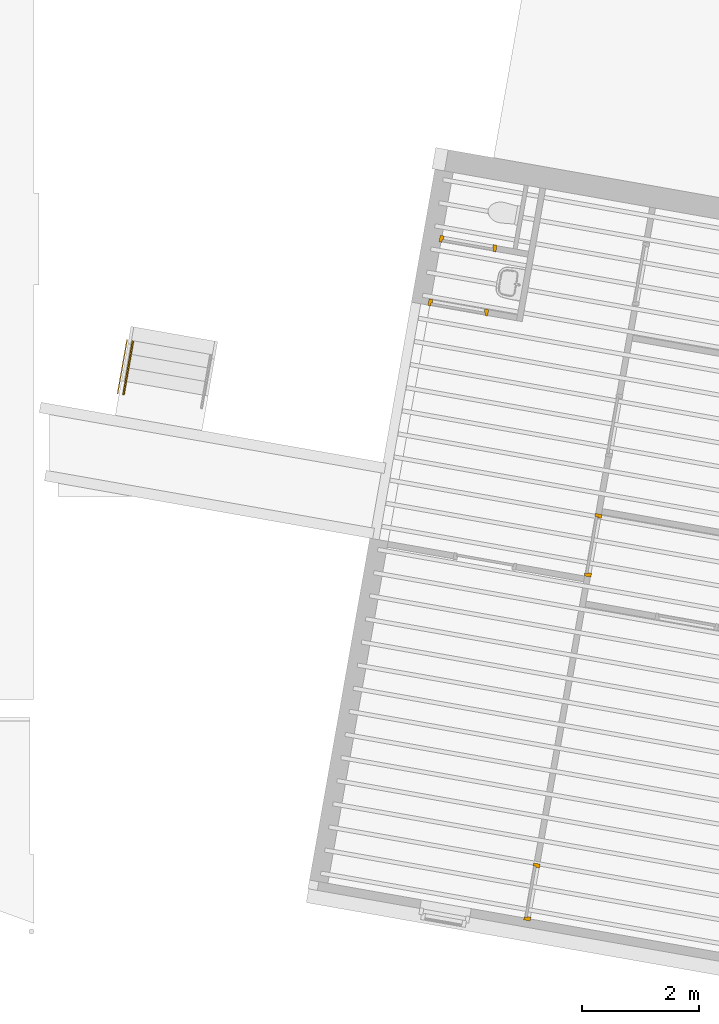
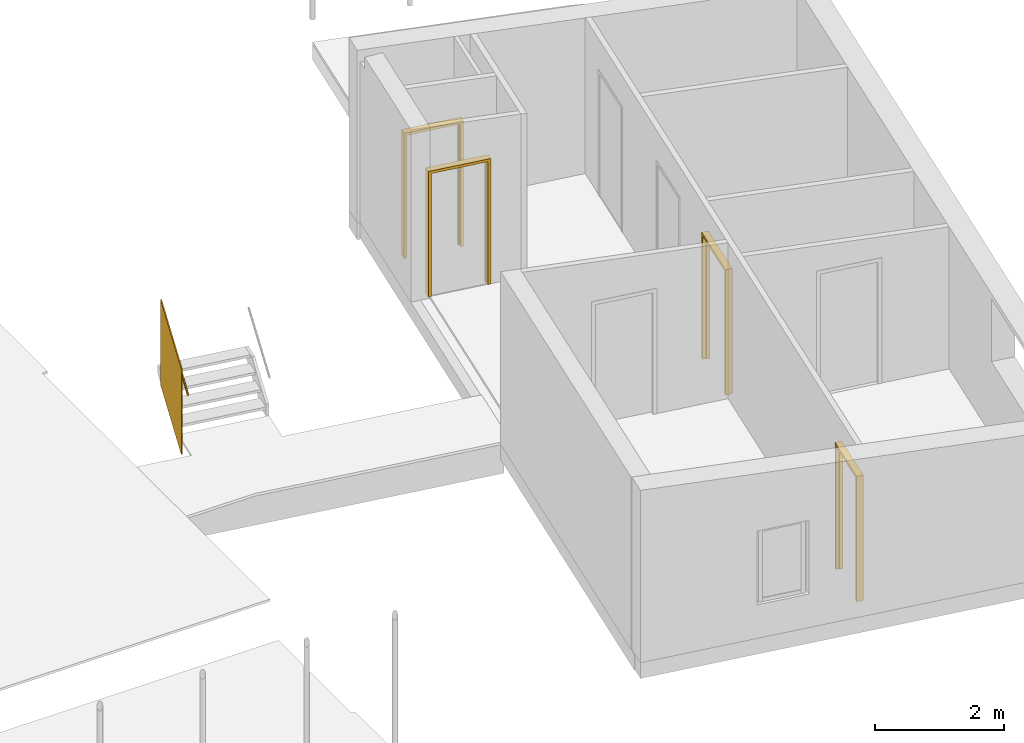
# One storey, part 7 of 7: 4 doors, 1 railing, 1 element without a shape of its own.
"""IFC2X3 building model written with IfcOpenShell, lengths in millimetres."""

from ifc_helpers import new_model, entity, si_unit, converted_unit, derived_unit, direction, frame, origin, place, context, subcontext, project, spatial, faceted_brep, source, transform, mapped, material, material_list, type_object, type_shapes, element, aggregate, save


model = new_model("IFC2X3")

# Units and contexts
model_context = context("Model", 3, precision=0.01, world=origin(), true_north=direction((6.12303176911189e-17, 1.0)))
body_context = subcontext(model_context, "Body", "Model", "MODEL_VIEW")
ifc_project = project(units=[si_unit("LENGTHUNIT", "METRE", prefix="MILLI"), si_unit("AREAUNIT", "SQUARE_METRE"), si_unit("VOLUMEUNIT", "CUBIC_METRE"), converted_unit("PLANEANGLEUNIT", "DEGREE", entity("IfcRatioMeasure", 0.0174532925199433), si_unit("PLANEANGLEUNIT", "RADIAN"), dimensions=[0, 0, 0, 0, 0, 0, 0]), si_unit("MASSUNIT", "GRAM", prefix="KILO"), derived_unit("MASSDENSITYUNIT", [(si_unit("MASSUNIT", "GRAM", prefix="KILO"), 1), (si_unit("LENGTHUNIT", "METRE"), -3)]), derived_unit("MOMENTOFINERTIAUNIT", [(si_unit("LENGTHUNIT", "METRE"), 4)]), si_unit("TIMEUNIT", "SECOND"), si_unit("FREQUENCYUNIT", "HERTZ"), si_unit("THERMODYNAMICTEMPERATUREUNIT", "DEGREE_CELSIUS"), derived_unit("THERMALTRANSMITTANCEUNIT", [(si_unit("MASSUNIT", "GRAM", prefix="KILO"), 1), (si_unit("THERMODYNAMICTEMPERATUREUNIT", "KELVIN"), -1), (si_unit("TIMEUNIT", "SECOND"), -3)]), derived_unit("VOLUMETRICFLOWRATEUNIT", [(si_unit("LENGTHUNIT", "METRE"), 3), (si_unit("TIMEUNIT", "SECOND"), -1)]), si_unit("ELECTRICCURRENTUNIT", "AMPERE"), si_unit("ELECTRICVOLTAGEUNIT", "VOLT"), si_unit("POWERUNIT", "WATT"), si_unit("FORCEUNIT", "NEWTON", prefix="KILO"), si_unit("ILLUMINANCEUNIT", "LUX"), si_unit("LUMINOUSFLUXUNIT", "LUMEN"), si_unit("LUMINOUSINTENSITYUNIT", "CANDELA"), derived_unit("USERDEFINED", [(si_unit("MASSUNIT", "GRAM", prefix="KILO"), -1), (si_unit("LENGTHUNIT", "METRE"), -2), (si_unit("TIMEUNIT", "SECOND"), 3), (si_unit("LUMINOUSFLUXUNIT", "LUMEN"), 1)]), derived_unit("LINEARVELOCITYUNIT", [(si_unit("LENGTHUNIT", "METRE"), 1), (si_unit("TIMEUNIT", "SECOND"), -1)]), si_unit("PRESSUREUNIT", "PASCAL"), derived_unit("USERDEFINED", [(si_unit("LENGTHUNIT", "METRE"), -2), (si_unit("MASSUNIT", "GRAM", prefix="KILO"), 1), (si_unit("TIMEUNIT", "SECOND"), -2)]), derived_unit("LINEARFORCEUNIT", [(si_unit("MASSUNIT", "GRAM", prefix="KILO"), 1), (si_unit("LENGTHUNIT", "METRE"), 1), (si_unit("TIMEUNIT", "SECOND"), -2), (si_unit("LENGTHUNIT", "METRE"), -1)]), derived_unit("PLANARFORCEUNIT", [(si_unit("MASSUNIT", "GRAM", prefix="KILO"), 1), (si_unit("LENGTHUNIT", "METRE"), 1), (si_unit("TIMEUNIT", "SECOND"), -2), (si_unit("LENGTHUNIT", "METRE"), -2)])], contexts=[model_context])

# Site, building, storey
site_placement = place(None, origin())
site = spatial("IfcSite", under=ifc_project, at=site_placement, Name="<Kadaster Gemeente>;<Kadaster nummer>;<Kadaster sectie>", CompositionType="ELEMENT")
building_placement = place(site_placement, origin())
building = spatial("IfcBuilding", under=site, at=building_placement, Name="JRCZ Middelburg", CompositionType="ELEMENT")
storey_placement = place(building_placement, frame((0.0, 0.0, 3000.0)))
storey = spatial("IfcBuildingStorey", under=building, at=storey_placement, Name="01 eerste verdieping", CompositionType="ELEMENT", Elevation=3000.0)

# Doors
ifc_material_1 = material(Name="<Unnamed>")
ifc_material_list_1 = material_list([ifc_material_1, ifc_material_1, ifc_material_1])
ifc_material_list_2 = material_list([ifc_material_1, ifc_material_1])
door_style_1 = type_object("IfcDoorStyle", Name="NLRS_32_DO_UN_samenstelling binnenkozijn hout-SH_generiek_ISR:enkele deur_gen", ConstructionType="USERDEFINED", OperationType="NOTDEFINED", ParameterTakesPrecedence=False, Sizeable=False, material=ifc_material_list_2)
shared_shape_1 = source(origin(), body_context, "Body", "Brep", [
    faceted_brep([(467.0, 0.0, 0.0), (467.0, 54.0, 0.0), (450.0, 54.0, 0.0), (450.0, 114.0, 0.0), (517.0, 114.0, 0.0), (517.0, 0.0, 0.0), (467.0, 0.0, 2327.0), (467.0, 54.0, 2327.0), (467.0, 54.0, 2310.0), (450.0, 54.0, 2310.0), (450.0, 114.0, 2310.0), (517.0, 114.0, 2310.0), (517.0, 54.0, 2310.0), (517.0, 54.0, 2327.0), (517.0, 0.0, 2327.0)], [[[0, 1, 2, 3, 4, 5]], [[6, 7, 8, 1, 0]], [[2, 1, 8, 9]], [[3, 2, 9, 10]], [[4, 3, 10, 11]], [[5, 4, 11, 12, 13, 14]], [[14, 6, 0, 5]], [[6, 14, 13, 7]], [[8, 12, 11, 10, 9]], [[12, 8, 7, 13]]]),
    faceted_brep([(-517.0, 0.0, 2327.0), (-517.0, 0.0, 2377.0), (-517.0, 114.0, 2377.0), (-517.0, 114.0, 2310.0), (-517.0, 54.0, 2310.0), (-517.0, 54.0, 2327.0), (517.0, 0.0, 2327.0), (517.0, 54.0, 2327.0), (517.0, 54.0, 2310.0), (517.0, 114.0, 2310.0), (517.0, 114.0, 2377.0), (517.0, 0.0, 2377.0)], [[[0, 1, 2, 3, 4, 5]], [[6, 7, 8, 9, 10, 11]], [[5, 7, 6, 0]], [[4, 8, 7, 5]], [[3, 9, 8, 4]], [[2, 10, 9, 3]], [[1, 11, 10, 2]], [[0, 6, 11, 1]]]),
    faceted_brep([(-467.0, 0.0, 0.0), (-517.0, 0.0, 0.0), (-517.0, 114.0, 0.0), (-450.0, 114.0, 0.0), (-450.0, 54.0, 0.0), (-467.0, 54.0, 0.0), (-467.0, 0.0, 2327.0), (-467.0, 54.0, 2310.0), (-467.0, 54.0, 2327.0), (-450.0, 54.0, 2310.0), (-450.0, 114.0, 2310.0), (-517.0, 114.0, 2310.0), (-517.0, 0.0, 2327.0), (-517.0, 54.0, 2327.0), (-517.0, 54.0, 2310.0)], [[[0, 1, 2, 3, 4, 5]], [[6, 0, 5, 7, 8]], [[4, 9, 7, 5]], [[3, 10, 9, 4]], [[2, 11, 10, 3]], [[1, 12, 13, 14, 11, 2]], [[12, 1, 0, 6]], [[6, 8, 13, 12]], [[7, 9, 10, 11, 14]], [[14, 13, 8, 7]]]),
])
type_shapes(door_style_1, [shared_shape_1])
door_1_placement = place(storey_placement, frame((24278.1019595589, 16778.9216066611, 0.0), z_axis=(0.0, 0.0, 1.0), x_axis=(0.984807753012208, -0.173648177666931, 0.0)))
element("IfcDoor", 1, at=door_1_placement, inside=storey, type_object=door_style_1, material=ifc_material_list_1, Name="NLRS_32_DO_UN_samenstelling binnenkozijn hout-SH_generiek_ISR:enkele deur_gen", ObjectType="NLRS_32_DO_UN_samenstelling binnenkozijn hout-SH_generiek_ISR:enkele deur_gen", OverallHeight=2377.00000000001, OverallWidth=1034.0, context=body_context, shape_type="MappedRepresentation", body=[
    mapped(shared_shape_1, transform((0.0, 0.0, 0.0), scale=1.0)),
])
ifc_material_list_3 = material_list([ifc_material_1, ifc_material_1, ifc_material_1])
ifc_material_list_4 = material_list([ifc_material_1, ifc_material_1])
door_style_2 = type_object("IfcDoorStyle", Name="NLRS_32_DO_UN_samenstelling binnenkozijn hout-SH_generiek_ISR:enkele deur_gen", ConstructionType="USERDEFINED", OperationType="NOTDEFINED", ParameterTakesPrecedence=False, Sizeable=False, material=ifc_material_list_4)
shared_shape_2 = source(origin(), body_context, "Body", "Brep", [
    faceted_brep([(492.0, 0.0, 0.0), (542.0, 0.0, 0.0), (542.0, -114.0, 0.0), (475.0, -114.0, 0.0), (475.0, -54.0, 0.0), (492.0, -54.0, 0.0), (492.0, 0.0, 2327.0), (492.0, -54.0, 2310.0), (492.0, -54.0, 2327.0), (475.0, -54.0, 2310.0), (475.0, -114.0, 2310.0), (542.0, -114.0, 2310.0), (542.0, 0.0, 2327.0), (542.0, -54.0, 2327.0), (542.0, -54.0, 2310.0)], [[[0, 1, 2, 3, 4, 5]], [[6, 0, 5, 7, 8]], [[4, 9, 7, 5]], [[3, 10, 9, 4]], [[2, 11, 10, 3]], [[1, 12, 13, 14, 11, 2]], [[12, 1, 0, 6]], [[6, 8, 13, 12]], [[7, 9, 10, 11, 14]], [[14, 13, 8, 7]]]),
    faceted_brep([(-542.0, 0.0, 2327.0), (-542.0, -54.0, 2327.0), (-542.0, -54.0, 2310.0), (-542.0, -114.0, 2310.0), (-542.0, -114.0, 2377.0), (-542.0, 0.0, 2377.0), (542.0, 0.0, 2327.0), (542.0, 0.0, 2377.0), (542.0, -114.0, 2377.0), (542.0, -114.0, 2310.0), (542.0, -54.0, 2310.0), (542.0, -54.0, 2327.0)], [[[0, 1, 2, 3, 4, 5]], [[6, 7, 8, 9, 10, 11]], [[1, 0, 6, 11]], [[2, 1, 11, 10]], [[3, 2, 10, 9]], [[4, 3, 9, 8]], [[5, 4, 8, 7]], [[0, 5, 7, 6]]]),
    faceted_brep([(-492.0, 0.0, 0.0), (-492.0, -54.0, 0.0), (-475.0, -54.0, 0.0), (-475.0, -114.0, 0.0), (-542.0, -114.0, 0.0), (-542.0, 0.0, 0.0), (-492.0, 0.0, 2327.0), (-492.0, -54.0, 2327.0), (-492.0, -54.0, 2310.0), (-475.0, -54.0, 2310.0), (-475.0, -114.0, 2310.0), (-542.0, -114.0, 2310.0), (-542.0, -54.0, 2310.0), (-542.0, -54.0, 2327.0), (-542.0, 0.0, 2327.0)], [[[0, 1, 2, 3, 4, 5]], [[6, 7, 8, 1, 0]], [[2, 1, 8, 9]], [[3, 2, 9, 10]], [[4, 3, 10, 11]], [[5, 4, 11, 12, 13, 14]], [[14, 6, 0, 5]], [[6, 14, 13, 7]], [[8, 12, 11, 10, 9]], [[12, 8, 7, 13]]]),
])
type_shapes(door_style_2, [shared_shape_2])
door_2_placement = place(storey_placement, frame((26528.0765972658, 12792.6572991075, 0.0), z_axis=(0.0, 0.0, 1.0), x_axis=(0.17364817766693, 0.984807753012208, 0.0)))
element("IfcDoor", 2, at=door_2_placement, inside=storey, type_object=door_style_2, material=ifc_material_list_3, Name="NLRS_32_DO_UN_samenstelling binnenkozijn hout-SH_generiek_ISR:enkele deur_gen", ObjectType="NLRS_32_DO_UN_samenstelling binnenkozijn hout-SH_generiek_ISR:enkele deur_gen", OverallHeight=2377.00000000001, OverallWidth=1084.0, context=body_context, shape_type="MappedRepresentation", body=[
    mapped(shared_shape_2, transform((0.0, 0.0, 0.0), scale=1.0)),
])
ifc_material_list_5 = material_list([ifc_material_1, ifc_material_1, ifc_material_1])
ifc_material_list_6 = material_list([ifc_material_1, ifc_material_1])
door_style_3 = type_object("IfcDoorStyle", Name="NLRS_32_DO_UN_samenstelling binnenkozijn hout-SH_generiek_ISR:enkele deur_gen", ConstructionType="USERDEFINED", OperationType="NOTDEFINED", ParameterTakesPrecedence=False, Sizeable=False, material=ifc_material_list_6)
shared_shape_3 = source(origin(), body_context, "Body", "Brep", [
    faceted_brep([(442.0, 0.0, 0.0), (442.0, 54.0, 0.0), (425.0, 54.0, 0.0), (425.0, 114.0, 0.0), (492.0, 114.0, 0.0), (492.0, 0.0, 0.0), (442.0, 0.0, 2327.0), (442.0, 54.0, 2327.0), (442.0, 54.0, 2310.0), (425.0, 54.0, 2310.0), (425.0, 114.0, 2310.0), (492.0, 114.0, 2310.0), (492.0, 54.0, 2310.0), (492.0, 54.0, 2327.0), (492.0, 0.0, 2327.0)], [[[0, 1, 2, 3, 4, 5]], [[6, 7, 8, 1, 0]], [[2, 1, 8, 9]], [[3, 2, 9, 10]], [[4, 3, 10, 11]], [[5, 4, 11, 12, 13, 14]], [[14, 6, 0, 5]], [[6, 14, 13, 7]], [[8, 12, 11, 10, 9]], [[12, 8, 7, 13]]]),
    faceted_brep([(-492.0, 0.0, 2327.0), (-492.0, 0.0, 2377.0), (-492.0, 114.0, 2377.0), (-492.0, 114.0, 2310.0), (-492.0, 54.0, 2310.0), (-492.0, 54.0, 2327.0), (492.0, 0.0, 2327.0), (492.0, 54.0, 2327.0), (492.0, 54.0, 2310.0), (492.0, 114.0, 2310.0), (492.0, 114.0, 2377.0), (492.0, 0.0, 2377.0)], [[[0, 1, 2, 3, 4, 5]], [[6, 7, 8, 9, 10, 11]], [[5, 7, 6, 0]], [[4, 8, 7, 5]], [[3, 9, 8, 4]], [[2, 10, 9, 3]], [[1, 11, 10, 2]], [[0, 6, 11, 1]]]),
    faceted_brep([(-442.0, 0.0, 0.0), (-492.0, 0.0, 0.0), (-492.0, 114.0, 0.0), (-425.0, 114.0, 0.0), (-425.0, 54.0, 0.0), (-442.0, 54.0, 0.0), (-442.0, 0.0, 2327.0), (-442.0, 54.0, 2310.0), (-442.0, 54.0, 2327.0), (-425.0, 54.0, 2310.0), (-425.0, 114.0, 2310.0), (-492.0, 114.0, 2310.0), (-492.0, 0.0, 2327.0), (-492.0, 54.0, 2327.0), (-492.0, 54.0, 2310.0)], [[[0, 1, 2, 3, 4, 5]], [[6, 0, 5, 7, 8]], [[4, 9, 7, 5]], [[3, 10, 9, 4]], [[2, 11, 10, 3]], [[1, 12, 13, 14, 11, 2]], [[12, 1, 0, 6]], [[6, 8, 13, 12]], [[7, 9, 10, 11, 14]], [[14, 13, 8, 7]]]),
])
type_shapes(door_style_3, [shared_shape_3])
door_3_placement = place(storey_placement, frame((24444.4947611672, 17866.5513394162, 0.0), z_axis=(0.0, 0.0, 1.0), x_axis=(0.984807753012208, -0.173648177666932, 0.0)))
element("IfcDoor", 3, at=door_3_placement, inside=storey, type_object=door_style_3, material=ifc_material_list_5, Name="NLRS_32_DO_UN_samenstelling binnenkozijn hout-SH_generiek_ISR:enkele deur_gen", ObjectType="NLRS_32_DO_UN_samenstelling binnenkozijn hout-SH_generiek_ISR:enkele deur_gen", OverallHeight=2377.00000000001, OverallWidth=984.000000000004, context=body_context, shape_type="MappedRepresentation", body=[
    mapped(shared_shape_3, transform((0.0, 0.0, 0.0), scale=1.0)),
])
ifc_material_list_7 = material_list([ifc_material_1, ifc_material_1, ifc_material_1])
ifc_material_list_8 = material_list([ifc_material_1, ifc_material_1])
door_style_4 = type_object("IfcDoorStyle", Name="NLRS_32_DO_UN_samenstelling binnenkozijn hout-SH_generiek_ISR:enkele deur_gen", ConstructionType="USERDEFINED", OperationType="NOTDEFINED", ParameterTakesPrecedence=False, Sizeable=False, material=ifc_material_list_8)
shared_shape_4 = source(origin(), body_context, "Body", "Brep", [
    faceted_brep([(442.0, 0.0, 0.0), (492.0, 0.0, 0.0), (492.0, -114.0, 0.0), (425.0, -114.0, 0.0), (425.0, -54.0, 0.0), (442.0, -54.0, 0.0), (442.0, 0.0, 2327.0), (442.0, -54.0, 2310.0), (442.0, -54.0, 2327.0), (425.0, -54.0, 2310.0), (425.0, -114.0, 2310.0), (492.0, -114.0, 2310.0), (492.0, 0.0, 2327.0), (492.0, -54.0, 2327.0), (492.0, -54.0, 2310.0)], [[[0, 1, 2, 3, 4, 5]], [[6, 0, 5, 7, 8]], [[4, 9, 7, 5]], [[3, 10, 9, 4]], [[2, 11, 10, 3]], [[1, 12, 13, 14, 11, 2]], [[12, 1, 0, 6]], [[6, 8, 13, 12]], [[7, 9, 10, 11, 14]], [[14, 13, 8, 7]]]),
    faceted_brep([(-492.0, 0.0, 2327.0), (-492.0, -54.0, 2327.0), (-492.0, -54.0, 2310.0), (-492.0, -114.0, 2310.0), (-492.0, -114.0, 2377.0), (-492.0, 0.0, 2377.0), (492.0, 0.0, 2327.0), (492.0, 0.0, 2377.0), (492.0, -114.0, 2377.0), (492.0, -114.0, 2310.0), (492.0, -54.0, 2310.0), (492.0, -54.0, 2327.0)], [[[0, 1, 2, 3, 4, 5]], [[6, 7, 8, 9, 10, 11]], [[1, 0, 6, 11]], [[2, 1, 11, 10]], [[3, 2, 10, 9]], [[4, 3, 9, 8]], [[5, 4, 8, 7]], [[0, 5, 7, 6]]]),
    faceted_brep([(-442.0, 0.0, 0.0), (-442.0, -54.0, 0.0), (-425.0, -54.0, 0.0), (-425.0, -114.0, 0.0), (-492.0, -114.0, 0.0), (-492.0, 0.0, 0.0), (-442.0, 0.0, 2327.0), (-442.0, -54.0, 2327.0), (-442.0, -54.0, 2310.0), (-425.0, -54.0, 2310.0), (-425.0, -114.0, 2310.0), (-492.0, -114.0, 2310.0), (-492.0, -54.0, 2310.0), (-492.0, -54.0, 2327.0), (-492.0, 0.0, 2327.0)], [[[0, 1, 2, 3, 4, 5]], [[6, 7, 8, 1, 0]], [[2, 1, 8, 9]], [[3, 2, 9, 10]], [[4, 3, 10, 11]], [[5, 4, 11, 12, 13, 14]], [[14, 6, 0, 5]], [[6, 14, 13, 7]], [[8, 12, 11, 10, 9]], [[12, 8, 7, 13]]]),
])
type_shapes(door_style_4, [shared_shape_4])
door_4_placement = place(storey_placement, frame((25486.1875312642, 6883.81078103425, 0.0), z_axis=(0.0, 0.0, 1.0), x_axis=(0.17364817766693, 0.984807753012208, 0.0)))
element("IfcDoor", 4, at=door_4_placement, inside=storey, type_object=door_style_4, material=ifc_material_list_7, Name="NLRS_32_DO_UN_samenstelling binnenkozijn hout-SH_generiek_ISR:enkele deur_gen", ObjectType="NLRS_32_DO_UN_samenstelling binnenkozijn hout-SH_generiek_ISR:enkele deur_gen", OverallHeight=2377.00000000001, OverallWidth=984.000000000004, context=body_context, shape_type="MappedRepresentation", body=[
    mapped(shared_shape_4, transform((0.0, 0.0, 0.0), scale=1.0)),
])

# Stair, railing
stair_placement = place(storey_placement, origin())
stair = element("IfcStair", 5, at=stair_placement, inside=storey, Name="Assembled Stair:Stair", ObjectType="Assembled Stair:RBM_ST_houten trap", ShapeType="STRAIGHT_RUN_STAIR")
ifc_material_2 = material(Name="Glass_RIPO")
ifc_material_list_9 = material_list([ifc_material_2, ifc_material_1])
railing_placement = place(stair_placement, frame((18471.6533387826, 15336.5674704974, -220.860503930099)))
railing = element("IfcRailing", 6, at=railing_placement, material=ifc_material_list_9, Name="Railing:RBM_RA_glasbalustrade 02 TRAP", ObjectType="Railing:RBM_RA_glasbalustrade 02 TRAP", PredefinedType="NOTDEFINED", context=body_context, shape_type="Brep", body=[
    faceted_brep([(163.071525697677, 949.938178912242, 2320.8605039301), (182.768272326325, 946.468571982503, 2320.8605039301), (182.768272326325, 946.468571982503, 700.0), (163.071525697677, 949.938178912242, 700.0), (0.0, 24.1910873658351, 1620.8605039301), (0.0, 24.1910873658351, 0.0), (19.6967466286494, 20.7214804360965, 0.0), (19.6967466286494, 20.7214804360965, 1620.8605039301)], [[[0, 1, 2, 3]], [[4, 5, 6, 7]], [[0, 3, 5, 4]], [[3, 2, 6, 5]], [[2, 1, 7, 6]], [[1, 0, 4, 7]]]),
    faceted_brep([(128.275062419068, 1.5952722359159, 1111.50866346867), (126.668138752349, 1.87833388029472, 1115.03232073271), (125.06121508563, 2.16139552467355, 1118.55597799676), (123.454291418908, 2.44445716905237, 1122.07963526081), (121.847367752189, 2.7275188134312, 1125.60329252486), (118.894486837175, 3.247672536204, 1132.0783606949), (114.204199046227, 4.07387268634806, 1132.0783606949), (109.513911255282, 4.90007283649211, 1132.0783606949), (104.823623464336, 5.72627298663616, 1132.0783606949), (100.133335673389, 6.55247313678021, 1132.0783606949), (97.788191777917, 6.96557321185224, 1126.93593638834), (95.4430478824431, 7.37867328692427, 1121.79351208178), (93.9666074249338, 7.63875014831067, 1118.55597799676), (92.3596837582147, 7.92181179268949, 1115.03232073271), (90.7527600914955, 8.20487343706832, 1111.50866346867), (92.3596837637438, 7.92181179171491, 1107.98500619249), (93.9666074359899, 7.63875014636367, 1104.46134891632), (95.4430478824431, 7.37867328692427, 1101.22381485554), (97.788191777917, 6.96557321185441, 1096.08139054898), (100.133335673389, 6.55247313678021, 1090.93896624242), (104.823623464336, 5.72627298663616, 1090.93896624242), (109.513911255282, 4.90007283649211, 1090.93896624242), (114.204199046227, 4.07387268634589, 1090.93896624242), (118.894486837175, 3.247672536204, 1090.93896624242), (121.239630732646, 2.83457246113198, 1096.08139054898), (123.584774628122, 2.42147238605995, 1101.22381485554), (125.929918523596, 2.00837231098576, 1106.3662391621), (291.346588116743, 927.342363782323, 1811.50866346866), (289.739664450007, 927.625425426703, 1807.98500620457), (288.132740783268, 927.908487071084, 1804.46134894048), (286.656300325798, 928.168563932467, 1801.22381485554), (284.311156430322, 928.581664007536, 1796.08139054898), (281.96601253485, 928.994764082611, 1790.93896624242), (277.275724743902, 929.820964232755, 1790.93896624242), (272.585436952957, 930.647164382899, 1790.93896624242), (267.895149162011, 931.473364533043, 1790.93896624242), (263.204861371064, 932.299564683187, 1790.93896624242), (260.251980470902, 932.819718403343, 1797.41403437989), (258.645056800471, 933.102780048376, 1800.93769165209), (257.038133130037, 933.385841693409, 1804.46134892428), (255.431209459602, 933.668903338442, 1807.98500619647), (253.824285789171, 933.951964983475, 1811.50866346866), (256.169429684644, 933.538864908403, 1816.65108777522), (258.514573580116, 933.125764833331, 1821.79351208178), (260.85971747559, 932.712664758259, 1826.93593638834), (263.204861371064, 932.299564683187, 1832.0783606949), (267.895149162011, 931.473364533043, 1832.0783606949), (272.585436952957, 930.647164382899, 1832.0783606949), (277.275724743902, 929.820964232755, 1832.0783606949), (281.96601253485, 928.994764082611, 1832.0783606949), (284.311156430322, 928.581664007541, 1826.93593638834), (286.656300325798, 928.168563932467, 1821.79351208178), (289.001444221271, 927.755463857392, 1816.65108777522)], [[[0, 1, 2, 3, 4, 5, 6, 7, 8, 9, 10, 11, 12, 13, 14, 15, 16, 17, 18, 19, 20, 21, 22, 23, 24, 25, 26]], [[27, 28, 29, 30, 31, 32, 33, 34, 35, 36, 37, 38, 39, 40, 41, 42, 43, 44, 45, 46, 47, 48, 49, 50, 51, 52]], [[5, 4, 3, 2, 1, 0, 27, 52, 51, 50, 49]], [[11, 10, 9, 45, 44, 43, 42, 41, 14, 13, 12]], [[7, 6, 5, 49, 48, 47, 46, 45, 9, 8]], [[17, 16, 15, 14, 41, 40, 39, 38, 37, 36, 19, 18]], [[34, 33, 32, 23, 22, 21, 20, 19, 36, 35]], [[29, 28, 27, 0, 26, 25, 24, 23, 32, 31, 30]]]),
])
aggregate(stair, [railing])

save(model, "model.ifc")
